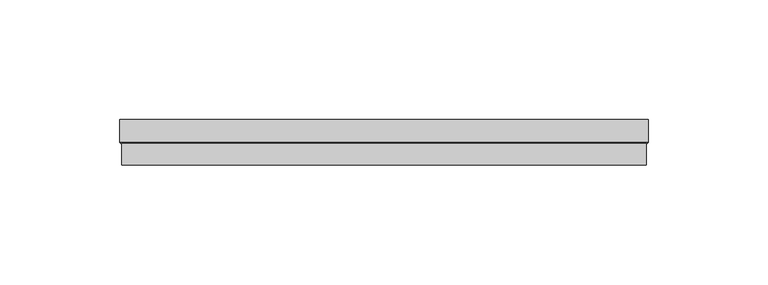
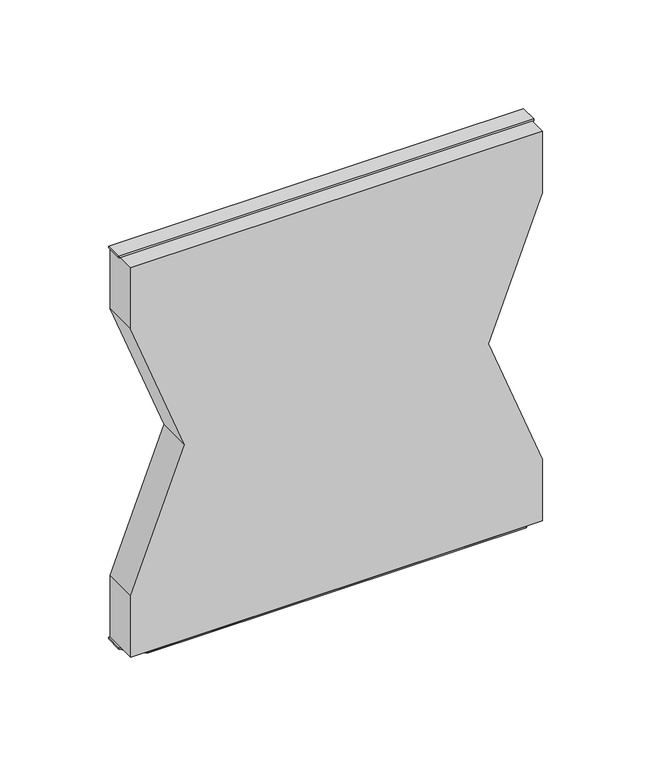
"""IFC4 building model written with IfcOpenShell, lengths in millimetres: proxy geometry, AERO^TABLE 2_ATS1S-4848^PVD DOOR04."""

from ifc_helpers import new_model, si_unit, frame, origin, place, context, project, spatial, polyline, outline, extrude, faceted_brep, source, transform, mapped, element, save


def generic_models_56d27a49(model_context):
    return source(origin(), model_context, "Body", "SolidModel", [
        extrude(outline(polyline([(-182.6727819, 32.0366049), (-107.7468214, 3.2752233), (-32.8208608, 32.0366049), (1.7906786, 32.0366049), (1.7906786, -187.0383951), (-32.8208608, -187.0383951), (-107.7468214, -158.2770136), (-182.6727819, -187.0383951), (-217.2843214, -187.0383951), (-217.2843214, 32.0366049), (-182.6727819, 32.0366049)])), frame((0.0, 0.0, 0.0), z_axis=(0.0, 1.0, 0.0), x_axis=(0.0, 0.0, 1.0)), (0.0, 0.0, 1.0), 19.05),
        extrude(outline(polyline([(-178.3071451, 0.0), (-187.8321451, 9.525), (-187.8321451, 19.05), (32.8303549, 19.05), (32.8303549, 9.525), (23.3053549, 0.0), (-178.3071451, 0.0)])), frame((0.0, 0.0, -218.0780714), z_axis=(0.0, 0.0, 1.0), x_axis=(1.0, 0.0, 0.0)), (0.0, 0.0, 1.0), 0.79375),
        faceted_brep([(-187.8321451, 9.525, 1.7906786), (-187.0383951, 8.73125, 1.7906786), (-187.8321451, 9.525, 2.5844286), (32.0366049, 8.73125, 1.7906786), (32.8303549, 9.525, 2.5844286), (32.8303549, 9.525, 1.7906786), (-187.8321451, 19.05, 2.5844286), (-187.8321451, 19.05, 1.7906786), (32.8303549, 19.05, 2.5844286), (32.8303549, 19.05, 1.7906786)], [[[0, 1, 2]], [[1, 3, 4, 2]], [[3, 5, 4]], [[0, 2, 6, 7]], [[2, 4, 8, 6]], [[4, 5, 9, 8]], [[9, 7, 6, 8]], [[1, 0, 7, 9, 5, 3]]]),
    ])


if __name__ == "__main__":
    model = new_model("IFC4")
    model_context = context("Model", 3, world=origin())
    ifc_project = project(units=[si_unit("LENGTHUNIT", "METRE", prefix="MILLI")], contexts=[model_context])
    site = spatial("IfcSite", under=ifc_project)
    building = spatial("IfcBuilding", under=site)
    placement = place(None, origin())
    generic_models_shape = generic_models_56d27a49(model_context)
    element("IfcBuildingElementProxy", 1, Name="AERO^TABLE 2_ATS1S-4848^PVD DOOR04", ObjectType="AERO^TABLE 2_ATS1S-4848^PVD DOOR04", at=placement, inside=building, context=model_context, shape_type="MappedRepresentation", body=[
        mapped(generic_models_shape, transform((0.0, 0.0, 0.0), x_axis=(1.0, 0.0, 0.0), y_axis=(0.0, 1.0, 0.0), z_axis=(0.0, 0.0, 1.0))),
    ])
    save(model, "model.ifc")
